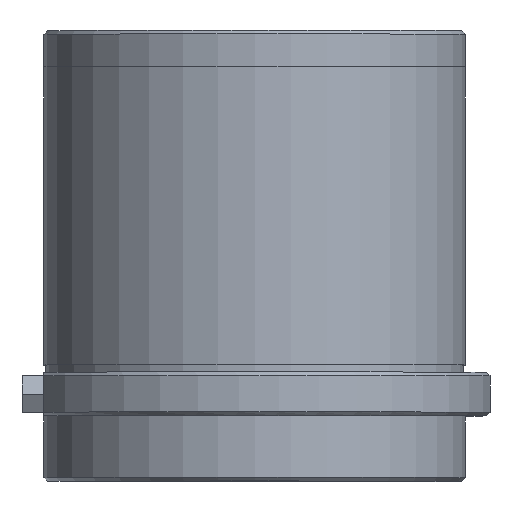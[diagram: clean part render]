
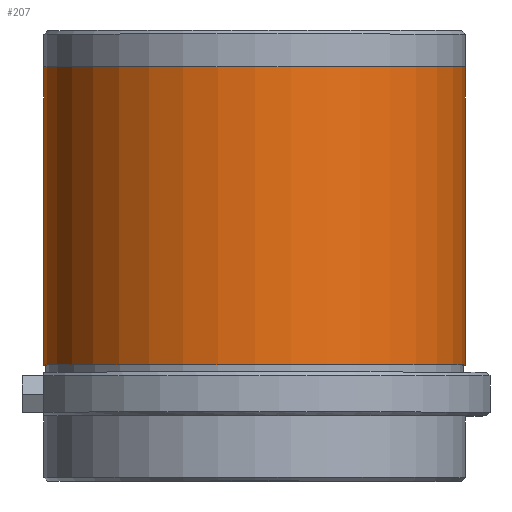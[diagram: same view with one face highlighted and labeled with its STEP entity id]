
A CAD part, top view. The second image highlights one B-rep face of the part: STEP entity #207.
In plain terms, the highlighted cylindrical face has radius 29 mm (diameter 58 mm), a full revolution.
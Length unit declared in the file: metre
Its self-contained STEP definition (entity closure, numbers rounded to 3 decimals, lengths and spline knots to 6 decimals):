
#207 = ADVANCED_FACE( '', ( #311, #312 ), #313, .T. );
#311 = FACE_OUTER_BOUND( '', #442, .T. );
#312 = FACE_OUTER_BOUND( '', #443, .T. );
#313 = CYLINDRICAL_SURFACE( '', #444, 0.029 );
#442 = EDGE_LOOP( '', ( #1821 ) );
#443 = EDGE_LOOP( '', ( #1822 ) );
#444 = AXIS2_PLACEMENT_3D( '', #1823, #1824, #1825 );
#1821 = ORIENTED_EDGE( '', *, *, #1963, .T. );
#1822 = ORIENTED_EDGE( '', *, *, #1964, .F. );
#1823 = CARTESIAN_POINT( '', ( 0., 0., 0. ) );
#1824 = DIRECTION( '', ( 0., 1., 0. ) );
#1825 = DIRECTION( '', ( 0., 0., -1. ) );
#1963 = EDGE_CURVE( '', #2084, #2084, #2085, .T. );
#1964 = EDGE_CURVE( '', #2086, #2086, #2087, .T. );
#2084 = VERTEX_POINT( '', #2291 );
#2085 = CIRCLE( '', #2292, 0.029 );
#2086 = VERTEX_POINT( '', #2293 );
#2087 = CIRCLE( '', #2294, 0.029 );
#2291 = CARTESIAN_POINT( '', ( 0., 0.048, -0.029 ) );
#2292 = AXIS2_PLACEMENT_3D( '', #3254, #3255, #3256 );
#2293 = CARTESIAN_POINT( '', ( 0., 0.007, -0.029 ) );
#2294 = AXIS2_PLACEMENT_3D( '', #3257, #3258, #3259 );
#3254 = CARTESIAN_POINT( '', ( 0., 0.048, 0. ) );
#3255 = DIRECTION( '', ( 0., -1., 0. ) );
#3256 = DIRECTION( '', ( 0., 0., -1. ) );
#3257 = CARTESIAN_POINT( '', ( 0., 0.007, 0. ) );
#3258 = DIRECTION( '', ( 0., -1., 0. ) );
#3259 = DIRECTION( '', ( 0., 0., -1. ) );
